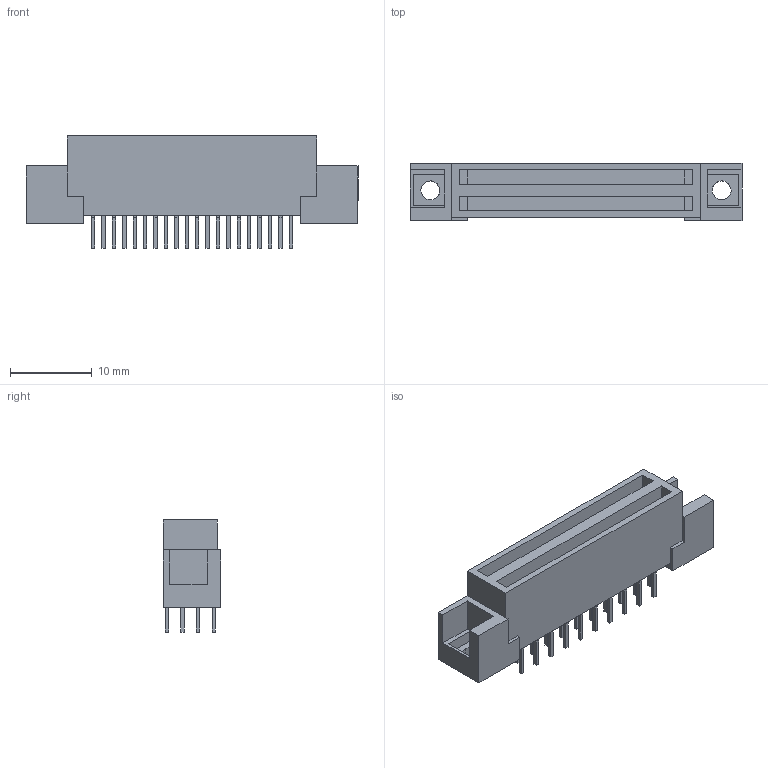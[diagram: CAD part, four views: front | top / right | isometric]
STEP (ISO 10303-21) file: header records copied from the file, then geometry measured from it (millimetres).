
FILE_DESCRIPTION(/* description */ (''),/* implementation_level */ '2;1');
FILE_NAME(/* name */ '78-5110-5916-0.stp',/* time_stamp */ '2011-07-18T11:26:28-05:00',/* author */ (''),/* organization */ (''),/* preprocessor_version */ 'ST-DEVELOPER v11',/* originating_system */ 'SIEMENS PLM Software NX 7.5',/* authorisation */ '');
FILE_SCHEMA (('AUTOMOTIVE_DESIGN { 1 0 10303 214 1 1 1 1 }'));
Length unit declared in the file: millimetre
Products named in the file (1): 78-5110-5916-0
Bounding box: 40.53 x 7.01 x 13.69 mm (x, y, z)
Volume: 1595.1 mm3; surface area: 2745.8 mm2
Topology: 1 solids, 1 shells, 348 faces, 1089 edges, 786 vertices
Faces by surface type: plane 344, cylinder 4
Entity records: 12998 total; most frequent: CARTESIAN_POINT 3566, ORIENTED_EDGE 2178, DIRECTION 1345, EDGE_CURVE 1089, VERTEX_POINT 786, LINE 647, VECTOR 647, B_SPLINE_CURVE_WITH_KNOTS 442
